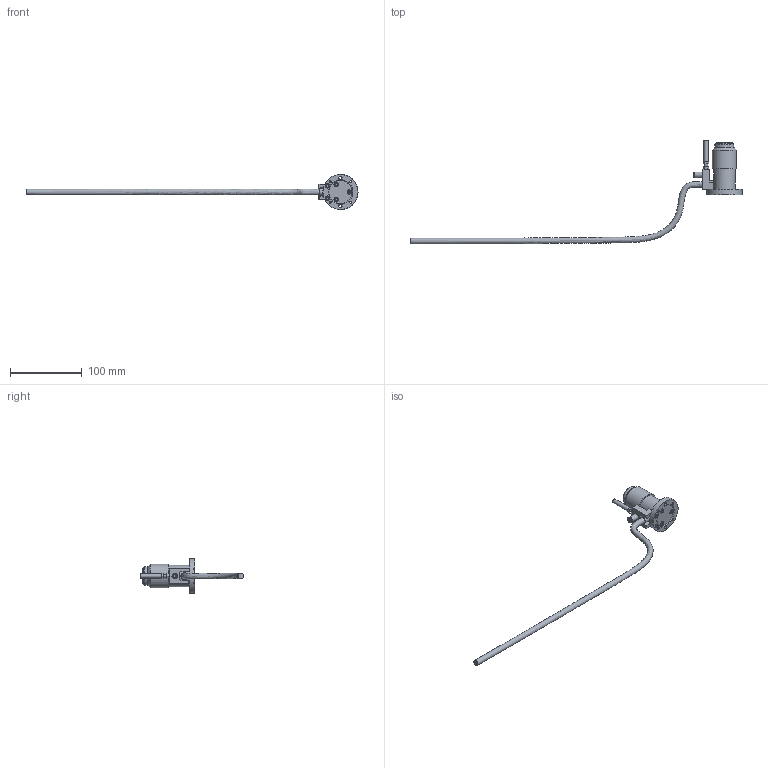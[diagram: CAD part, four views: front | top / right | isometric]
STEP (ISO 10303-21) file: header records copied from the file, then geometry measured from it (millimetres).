
FILE_DESCRIPTION(/* description */ (''),/* implementation_level */ '2;1');
FILE_NAME(/* name */ 'Z:\Проектный отдел\Алена\Датчик высоты инструмента CT20\Датчик высоты инструмента CT20.stp',/* time_stamp */ '2024-03-01T10:37:46+03:00',/* author */ ('User'),/* organization */ (''),/* preprocessor_version */ 'ST-DEVELOPER v18',/* originating_system */ 'Autodesk Inventor 2020',/* authorisation */ '');
FILE_SCHEMA (('AUTOMOTIVE_DESIGN { 1 0 10303 214 3 1 1 }'));
Length unit declared in the file: millimetre
Products named in the file (1): Датчик высоты 
инструмента CT20
Bounding box: 463.85 x 144.89 x 49 mm (x, y, z)
Volume: 92677.1 mm3; surface area: 28158.3 mm2
Topology: 6 solids, 6 shells, 136 faces, 352 edges, 248 vertices
Faces by surface type: plane 99, cylinder 32, cone 3, torus 1, bspline 1
Full cylindrical faces by diameter (mm): 2.85 x4, 4 x2, 4.5 x7, 5.6 x1, 6 x6, 7.6 x1, 7.8 x1, 8 x1, 9.6 x1, 20 x1, 21.5 x1, 26.5 x1, 30 x1, 33.5 x1, 49 x1
Entity records: 4702 total; most frequent: CARTESIAN_POINT 1029, DIRECTION 758, ORIENTED_EDGE 704, EDGE_CURVE 352, AXIS2_PLACEMENT_3D 273, VERTEX_POINT 248, LINE 212, VECTOR 212
